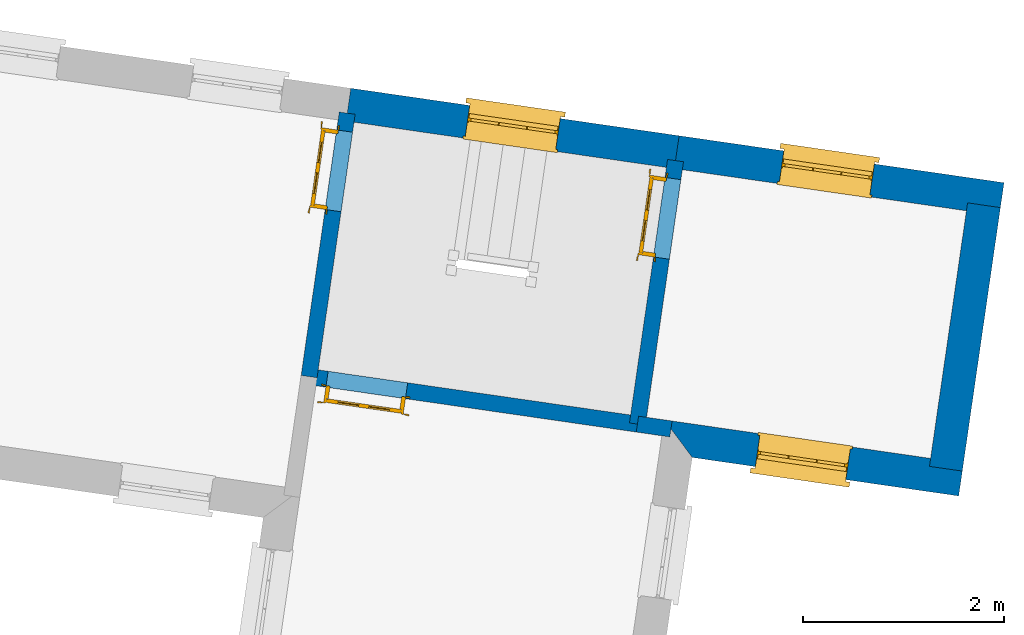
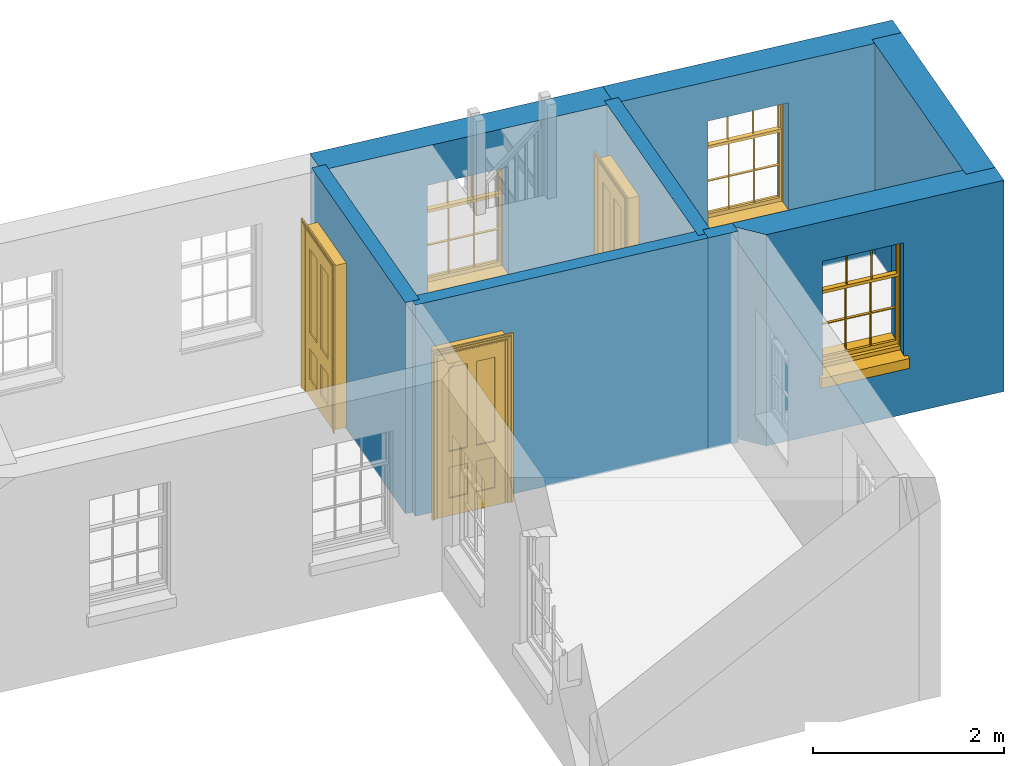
# One storey, part 2 of 4: 8 walls, 3 doors, 3 windows, 6 openings.
"""IFC4 building model written with IfcOpenShell, lengths in metres."""

from ifc_helpers import new_model, si_unit, frame, origin, origin_with_axes, place, context, subcontext, project, spatial, polyline, outline, extrude, faceted_brep, source, transform, mapped, material, layer, layer_set, layer_usage, type_object, type_shapes, element, fill, save


model = new_model("IFC4")

# Units and contexts
model_context = context("Model", 3, world=origin_with_axes())
body_context = subcontext(model_context, "Body", "Model", "MODEL_VIEW")
ifc_project = project(units=[si_unit("PLANEANGLEUNIT", "RADIAN"), si_unit("MASSUNIT", "GRAM", prefix="KILO"), si_unit("FORCEUNIT", "NEWTON", prefix="KILO"), si_unit("LENGTHUNIT", "METRE"), si_unit("AREAUNIT", "SQUARE_METRE"), si_unit("VOLUMEUNIT", "CUBIC_METRE")], contexts=[model_context, model_context])

# Sites, building, storey
site_1_placement = place(None, origin_with_axes())
site_1 = spatial("IfcSite", under=ifc_project, at=site_1_placement, Name="Tamar")
site_2_placement = place(site_1_placement, origin_with_axes())
site_2 = spatial("IfcSite", under=site_1, at=site_2_placement, Name="Site plot-30", CompositionType="ELEMENT")
building_placement = place(None, origin_with_axes())
building = spatial("IfcBuilding", under=site_2, at=building_placement, Name="Building plot-30", CompositionType="ELEMENT")
storey_placement = place(None, frame((0.0, 0.0, 28.3), z_axis=(0.0, 0.0, 1.0), x_axis=(1.0, 0.0, 0.0)))
storey = spatial("IfcBuildingStorey", under=building, at=storey_placement, Name="plot-30 1", CompositionType="ELEMENT", Elevation=28.3)

# Wall, opening, window
ifc_material_1 = material(Name="Masonry")
ifc_layer_1 = layer(ifc_material_1, 0.33, ventilated=False)
ifc_layer_set_1 = layer_set([ifc_layer_1], Name="exterior_0.08_0.25")
ifc_layer_usage_1 = layer_usage(ifc_layer_set_1, "AXIS2", "POSITIVE", -0.25)
wall_type_1 = type_object("IfcWallType", Name="exterior_0.08_0.25", PredefinedType="SOLIDWALL", material=ifc_layer_set_1)
wall_1_placement = place(storey_placement, frame((292.635763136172, 262.59733009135, 0.0), z_axis=(0.0, 0.0, 1.0), x_axis=(-0.989705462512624, 0.143119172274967, 0.0)))
wall_1 = element("IfcWall", 1, at=wall_1_placement, inside=storey, type_object=wall_type_1, material=ifc_layer_usage_1, Name="exterior", context=body_context, shape_type="SweptSolid", body=[
    extrude(outline(polyline([(-0.249999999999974, 0.0800000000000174), (-0.249999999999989, -0.249999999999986), (3.01646015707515, -0.249999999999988), (3.01646015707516, 0.0800000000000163), (-0.249999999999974, 0.0800000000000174)])), origin_with_axes(), (0.0, 0.0, 1.0), 2.7),
])
opening_1_placement = place(wall_1_placement, frame((1.05323007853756, 0.0, 0.75)))
opening_1 = element("IfcOpeningElement", 2, at=opening_1_placement, cuts=wall_1, Name="My Opening", ObjectType="Opening", context=body_context, shape_type="SweptSolid", body=[
    extrude(outline(polyline([(0.0, -0.269999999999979), (0.909999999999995, -0.270000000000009), (0.909999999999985, 1.10000000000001), (-1.06581410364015e-14, 1.10000000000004), (0.0, -0.269999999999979)])), origin_with_axes(), (0.0, 0.0, 1.0), 1.445),
])
window_type = type_object("IfcWindowType", Name="sash_shorter", PartitioningType="DOUBLE_PANEL_HORIZONTAL", PredefinedType="NOTDEFINED")
shared_shape_1 = source(origin(), body_context, "Body", "Brep", [
    faceted_brep([(0.876875, 0.145, 0.999097), (0.876875, 0.145, 1.411875), (0.9, 0.145, 1.435), (0.033125, 0.145, 1.411875), (0.033125, 0.145, 0.999097), (0.01, 0.145, 1.435), (0.033125, 0.115, 1.411875), (0.01, 0.115, 1.435), (0.033125, 0.115, 0.999097), (0.876875, 0.115, 1.411875), (0.876875, 0.115, 0.999097), (0.9, 0.115, 1.435), (0.033125, 0.145, 0.960972), (0.01, 0.145, 0.960972), (0.033125, 0.145, 0.548195), (0.876875, 0.145, 0.960972), (0.876875, 0.145, 0.548195), (0.9, 0.145, 0.960972), (0.876875, 0.145, 0.538195), (0.876875, 0.145, 0.125417), (0.9, 0.145, 0.077167), (0.033125, 0.145, 0.125417), (0.033125, 0.145, 0.538195), (0.01, 0.145, 0.077167), (0.9, 0.115, 0.960972), (0.01, 0.115, 0.960972), (-0.0425, 0.0, 0.01), (-0.0425, -0.05, 0.001667), (0.0, 0.0, 0.01), (0.9525, 0.0, 0.01), (0.91, 0.0, 0.01), (0.9525, -0.05, 0.001667), (-0.02, 0.33, 0.077167), (0.0, 0.33, 0.077167), (-0.02, 0.36, 0.077167), (0.0, 0.19, 0.077167), (0.01, 0.19, 0.077167), (0.91, 0.19, 0.077167), (0.91, 0.33, 0.077167), (0.9, 0.19, 0.077167), (0.93, 0.33, 0.077167), (0.93, 0.36, 0.077167), (0.01, 0.145, 0.999097), (0.01, 0.175, 0.999097), (0.9, 0.145, 0.999097), (0.9, 0.175, 0.999097), (0.876875, 0.175, 0.125417), (0.876875, 0.175, 0.538195), (0.9, 0.175, 0.077167), (0.876875, 0.175, 0.548195), (0.876875, 0.175, 0.960972), (0.033125, 0.175, 0.125417), (0.01, 0.175, 0.077167), (0.033125, 0.175, 0.538195), (0.033125, 0.175, 0.960972), (0.033125, 0.175, 0.548195), (-0.02, 0.33, 0.052167), (-0.02, 0.36, 0.052167), (0.93, 0.36, 0.052167), (0.93, 0.33, 0.052167), (0.91, 0.33, 0.052167), (0.0, 0.33, 0.052167), (0.91, 0.1, 0.026667), (0.0, 0.1, 0.026667), (-0.0425, -0.05, -0.123333), (0.9525, -0.05, -0.123333), (-0.0425, 0.0, -0.123333), (0.9525, 0.0, -0.123333), (0.01, 0.19, 1.435), (0.9, 0.19, 1.435), (0.0, 0.19, 1.445), (0.91, 0.19, 1.445), (0.01, 0.1, 0.077167), (0.9, 0.1, 0.077167), (0.592292, 0.145, 0.125417), (0.592292, 0.175, 0.125417), (0.317708, 0.175, 0.125417), (0.317708, 0.145, 0.125417), (0.592292, 0.145, 0.548195), (0.317708, 0.145, 0.548195), (0.317708, 0.145, 0.538195), (0.592292, 0.145, 0.538195), (0.592292, 0.175, 0.548195), (0.317708, 0.175, 0.548195), (0.602292, 0.175, 0.548195), (0.602292, 0.145, 0.548195), (0.317708, 0.175, 0.538195), (0.307708, 0.175, 0.125417), (0.307708, 0.175, 0.538195), (0.602292, 0.175, 0.538195), (0.602292, 0.175, 0.125417), (0.592292, 0.175, 0.538195), (0.307708, 0.175, 0.548195), (0.317708, 0.175, 0.960972), (0.307708, 0.175, 0.960972), (0.602292, 0.175, 0.960972), (0.592292, 0.175, 0.960972), (0.307708, 0.145, 0.538195), (0.307708, 0.145, 0.125417), (0.307708, 0.145, 0.548195), (0.307708, 0.145, 0.960972), (0.592292, 0.145, 0.960972), (0.317708, 0.145, 0.960972), (0.602292, 0.145, 0.960972), (0.602292, 0.145, 0.538195), (0.602292, 0.145, 0.125417), (0.317708, 0.115, 1.411875), (0.307708, 0.115, 1.411875), (0.307708, 0.115, 0.999097), (0.317708, 0.115, 0.999097), (0.602292, 0.115, 1.411875), (0.592292, 0.115, 1.411875), (0.592292, 0.115, 0.999097), (0.602292, 0.115, 0.999097), (0.317708, 0.145, 0.999097), (0.307708, 0.145, 0.999097), (0.307708, 0.145, 1.411875), (0.317708, 0.145, 1.411875), (0.602292, 0.145, 0.999097), (0.592292, 0.145, 0.999097), (0.592292, 0.145, 1.411875), (0.602292, 0.145, 1.411875), (0.91, 0.1, 1.445), (0.9, 0.1, 1.435), (0.01, 0.1, 1.435), (0.0, 0.1, 1.445), (0.91, 0.0, 0.0), (0.0, 0.0, 0.0), (0.91, 0.33, 0.0), (0.0, 0.33, 0.0)], [[[0, 1, 2]], [[3, 4, 5]], [[6, 7, 8]], [[9, 10, 11]], [[12, 13, 14]], [[15, 16, 17]], [[18, 19, 20]], [[21, 22, 23]], [[24, 15, 17]], [[13, 12, 25]], [[26, 27, 28]], [[29, 30, 31]], [[32, 33, 34]], [[35, 36, 33]], [[37, 38, 39]], [[40, 41, 38]], [[42, 4, 43]], [[44, 45, 0]], [[46, 47, 48]], [[49, 50, 45]], [[51, 52, 53]], [[54, 55, 43]], [[38, 33, 36, 39]], [[41, 34, 33, 38]], [[56, 32, 34, 57]], [[57, 34, 41, 58]], [[58, 41, 40, 59]], [[57, 58, 60, 61]], [[52, 48, 39, 36]], [[62, 63, 28, 30]], [[27, 31, 30, 28]], [[27, 64, 65, 31]], [[66, 67, 65, 64]], [[2, 5, 68, 69]], [[68, 70, 71, 69]], [[20, 23, 72, 73]], [[73, 72, 63, 62]], [[74, 75, 76, 77]], [[78, 79, 80, 81]], [[78, 82, 83, 79]], [[16, 49, 84, 85]], [[86, 76, 87, 88]], [[89, 90, 75, 91]], [[92, 88, 53, 55]], [[82, 91, 86, 83]], [[93, 83, 92, 94]], [[95, 84, 82, 96]], [[89, 84, 49, 47]], [[97, 88, 87, 98]], [[22, 53, 88, 97]], [[81, 91, 75, 74]], [[80, 86, 91, 81]], [[77, 76, 86, 80]], [[99, 92, 55, 14]], [[100, 94, 92, 99]], [[101, 96, 82, 78]], [[79, 83, 93, 102]], [[85, 84, 95, 103]], [[104, 89, 47, 18]], [[105, 90, 89, 104]], [[104, 18, 16, 85]], [[80, 97, 98, 77]], [[104, 81, 74, 105]], [[103, 101, 78, 85]], [[99, 14, 22, 97]], [[102, 100, 99, 79]], [[106, 107, 108, 109]], [[110, 111, 112, 113]], [[114, 115, 116, 117]], [[118, 119, 120, 121]], [[107, 116, 115, 108]], [[111, 120, 119, 112]], [[109, 114, 117, 106]], [[113, 118, 121, 110]], [[85, 78, 81, 104]], [[84, 89, 91, 82]], [[83, 86, 88, 92]], [[79, 99, 97, 80]], [[109, 112, 119, 114]], [[102, 93, 96, 101]], [[106, 117, 120, 111]], [[98, 87, 51, 21]], [[6, 3, 116, 107]], [[110, 121, 1, 9]], [[19, 46, 90, 105]], [[26, 66, 64, 27]], [[29, 31, 65, 67]], [[25, 24, 112, 109]], [[11, 7, 106, 111]], [[75, 48, 52, 76]], [[43, 45, 96, 93]], [[45, 43, 114, 119]], [[5, 2, 120, 117]], [[24, 25, 102, 101]], [[42, 5, 4]], [[2, 44, 0]], [[49, 45, 48, 47]], [[52, 43, 55, 53]], [[14, 13, 23, 22]], [[20, 17, 16, 18]], [[24, 11, 10]], [[25, 8, 7]], [[8, 4, 3, 6]], [[9, 1, 0, 10]], [[15, 50, 49, 16]], [[18, 47, 46, 19]], [[21, 51, 53, 22]], [[14, 55, 54, 12]], [[44, 2, 69, 45]], [[68, 5, 42, 43]], [[36, 35, 70, 68]], [[39, 69, 71, 37]], [[62, 122, 123, 73]], [[63, 72, 124, 125]], [[8, 108, 115, 4]], [[113, 10, 0, 118]], [[94, 100, 12, 54]], [[17, 20, 73, 24]], [[72, 23, 13, 25]], [[52, 36, 68, 43]], [[69, 39, 48, 45]], [[11, 24, 73, 123]], [[7, 124, 72, 25]], [[23, 77, 98]], [[98, 21, 23]], [[105, 74, 20]], [[20, 19, 105]], [[20, 74, 77, 23]], [[113, 112, 24]], [[24, 10, 113]], [[25, 109, 108]], [[108, 8, 25]], [[110, 9, 11]], [[11, 111, 110]], [[7, 6, 107]], [[107, 106, 7]], [[5, 117, 116]], [[116, 3, 5]], [[121, 120, 2]], [[2, 1, 121]], [[11, 123, 124, 7]], [[122, 125, 124, 123]], [[43, 93, 94]], [[94, 54, 43]], [[96, 45, 95]], [[50, 95, 45]], [[15, 103, 95, 50]], [[48, 75, 90]], [[90, 46, 48]], [[87, 76, 52]], [[52, 51, 87]], [[103, 15, 24]], [[24, 101, 103]], [[100, 102, 25]], [[25, 12, 100]], [[115, 114, 43]], [[43, 4, 115]], [[118, 0, 45]], [[45, 119, 118]], [[71, 70, 125, 122]], [[70, 35, 63, 125]], [[122, 62, 37, 71]], [[126, 67, 66, 127]], [[60, 58, 59]], [[38, 60, 59, 40]], [[61, 56, 57]], [[32, 56, 61, 33]], [[61, 60, 128, 129]], [[62, 60, 38, 37]], [[126, 128, 60, 62]], [[33, 61, 63, 35]], [[61, 129, 127, 63]], [[128, 126, 127, 129]], [[28, 127, 66, 26]], [[63, 127, 28]], [[29, 67, 126, 30]], [[30, 126, 62]]]),
])
type_shapes(window_type, [shared_shape_1])
window_1_placement = place(storey_placement, frame((291.632017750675, 263.015287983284, 0.75), z_axis=(0.0, 0.0, 1.0), x_axis=(-0.900631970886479, 0.13023844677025, 0.0)))
window_1 = element("IfcWindow", 3, at=window_1_placement, inside=storey, type_object=window_type, Name="toilet outside window", OverallHeight=1.445, OverallWidth=0.91, context=body_context, shape_type="MappedRepresentation", body=[
    mapped(shared_shape_1, transform((0.0, 0.0, 0.0), scale=1.0)),
])
fill(opening_1, window_1)

wall_2_placement = place(storey_placement, frame((289.650356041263, 263.029043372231, 0.0), z_axis=(0.0, 0.0, 1.0), x_axis=(-0.989705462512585, 0.143119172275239, 0.0)))
wall_2 = element("IfcWall", 4, at=wall_2_placement, inside=storey, type_object=wall_type_1, material=ifc_layer_usage_1, Name="exterior", context=body_context, shape_type="SweptSolid", body=[
    extrude(outline(polyline([(-8.41503283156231e-15, 0.0800000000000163), (6.75168679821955e-14, -0.249999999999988), (3.3010173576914, -0.249999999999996), (3.30101735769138, 0.0800000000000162), (-8.41503283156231e-15, 0.0800000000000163)])), origin_with_axes(), (0.0, 0.0, 1.0), 2.7),
])
opening_2_placement = place(wall_2_placement, frame((1.19550867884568, 0.0, 0.75)))
opening_2 = element("IfcOpeningElement", 5, at=opening_2_placement, cuts=wall_2, Name="My Opening", ObjectType="Opening", context=body_context, shape_type="SweptSolid", body=[
    extrude(outline(polyline([(0.0, -0.270000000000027), (0.910000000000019, -0.269999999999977), (0.910000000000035, 1.10000000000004), (1.53210777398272e-14, 1.09999999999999), (0.0, -0.270000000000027)])), origin_with_axes(), (0.0, 0.0, 1.0), 1.445),
])
window_2_placement = place(storey_placement, frame((288.505796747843, 263.467364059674, 0.75), z_axis=(0.0, 0.0, 1.0), x_axis=(-0.900631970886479, 0.13023844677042, 0.0)))
window_2 = element("IfcWindow", 6, at=window_2_placement, inside=storey, type_object=window_type, Name="circulation outside window", OverallHeight=1.445, OverallWidth=0.91, context=body_context, shape_type="MappedRepresentation", body=[
    mapped(shared_shape_1, transform((0.0, 0.0, 0.0), scale=1.0)),
])
fill(opening_2, window_2)

wall_3_placement = place(storey_placement, frame((289.605061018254, 260.358638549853, 0.0), z_axis=(0.0, 0.0, 1.0), x_axis=(0.98970546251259, -0.143119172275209, 0.0)))
wall_3 = element("IfcWall", 7, at=wall_3_placement, inside=storey, type_object=wall_type_1, material=ifc_layer_usage_1, Name="exterior", context=body_context, shape_type="SweptSolid", body=[
    extrude(outline(polyline([(-0.0800000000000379, 0.0799999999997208), (0.250000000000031, -0.249999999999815), (2.92910276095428, -0.249999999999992), (2.92910276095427, 0.0800000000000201), (-0.0800000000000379, 0.0799999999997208)])), origin_with_axes(), (0.0, 0.0, 1.0), 2.7),
])
opening_3_placement = place(wall_3_placement, frame((0.884551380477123, 0.0, 0.75)))
opening_3 = element("IfcOpeningElement", 8, at=opening_3_placement, cuts=wall_3, Name="My Opening", ObjectType="Opening", context=body_context, shape_type="SweptSolid", body=[
    extrude(outline(polyline([(0.0, -0.270000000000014), (0.91000000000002, -0.26999999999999), (0.91000000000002, 1.10000000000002), (-1.11022302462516e-16, 1.09999999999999), (0.0, -0.270000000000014)])), origin_with_axes(), (0.0, 0.0, 1.0), 1.445),
])
window_3_placement = place(storey_placement, frame((290.441864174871, 259.964821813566, 0.75), z_axis=(0.0, 0.0, 1.0), x_axis=(0.900631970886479, -0.13023844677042, 0.0)))
window_3 = element("IfcWindow", 9, at=window_3_placement, inside=storey, type_object=window_type, Name="toilet sahn window", OverallHeight=1.445, OverallWidth=0.91, context=body_context, shape_type="MappedRepresentation", body=[
    mapped(shared_shape_1, transform((0.0, 0.0, 0.0), scale=1.0)),
])
fill(opening_3, window_3)

# Walls
ifc_material_2 = material(Name="Masonry")
ifc_layer_2 = layer(ifc_material_2, 0.33, ventilated=False)
ifc_layer_set_2 = layer_set([ifc_layer_2], Name="party_0.08_0.25")
ifc_layer_usage_2 = layer_usage(ifc_layer_set_2, "AXIS2", "POSITIVE", -0.25)
wall_type_2 = type_object("IfcWallType", Name="party_0.08_0.25", PredefinedType="SOLIDWALL", material=ifc_layer_set_2)
wall_4_placement = place(storey_placement, frame((292.256583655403, 259.975207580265, 0.0), z_axis=(0.0, 0.0, 1.0), x_axis=(0.143119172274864, 0.98970546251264, 0.0)))
element("IfcWall", 10, at=wall_4_placement, inside=storey, type_object=wall_type_2, material=ifc_layer_usage_2, Name="party", context=body_context, shape_type="SweptSolid", body=[
    extrude(outline(polyline([(2.18540877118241e-14, 0.0800000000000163), (-2.71851560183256e-14, -0.249999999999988), (2.64939682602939, -0.249999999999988), (2.64939682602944, 0.0800000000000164), (2.18540877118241e-14, 0.0800000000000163)])), origin_with_axes(), (0.0, 0.0, 1.0), 2.7),
])
ifc_material_3 = material(Name="Masonry")
ifc_layer_3 = layer(ifc_material_3, 0.16, ventilated=False)
ifc_layer_set_3 = layer_set([ifc_layer_3], Name="interior_0.08_0.08")
ifc_layer_usage_3 = layer_usage(ifc_layer_set_3, "AXIS2", "POSITIVE", -0.08)
wall_type_3 = type_object("IfcWallType", Name="interior_0.08_0.08", PredefinedType="SOLIDWALL", material=ifc_layer_set_3)
wall_5_placement = place(storey_placement, frame((289.271176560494, 260.406920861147, 0.0), z_axis=(0.0, 0.0, 1.0), x_axis=(0.9897054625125, -0.143119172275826, 0.0)))
element("IfcWall", 11, at=wall_5_placement, inside=storey, type_object=wall_type_3, material=ifc_layer_usage_3, Name="interior", context=body_context, shape_type="SweptSolid", body=[
    extrude(outline(polyline([(3.6016995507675e-16, 0.0800000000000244), (-3.69967129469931e-16, -0.0800000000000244), (0.33735739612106, -0.0800000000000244), (0.337357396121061, 0.0800000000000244), (3.6016995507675e-16, 0.0800000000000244)])), origin_with_axes(), (0.0, 0.0, 1.0), 2.7),
])

# Wall, opening, door
wall_6_placement = place(storey_placement, frame((289.271176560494, 260.406920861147, 0.0), z_axis=(0.0, 0.0, 1.0), x_axis=(0.143119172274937, 0.989705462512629, 0.0)))
wall_6 = element("IfcWall", 12, at=wall_6_placement, inside=storey, type_object=wall_type_3, material=ifc_layer_usage_3, Name="interior", context=body_context, shape_type="SweptSolid", body=[
    extrude(outline(polyline([(1.59743465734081e-14, 0.0800000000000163), (-1.59823129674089e-14, -0.0800000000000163), (2.64939682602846, -0.0800000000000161), (2.64939682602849, 0.0800000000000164), (1.59743465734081e-14, 0.0800000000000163)])), origin_with_axes(), (0.0, 0.0, 1.0), 2.7),
])
opening_4_placement = place(wall_6_placement, frame((1.66939682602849, 0.0, 0.0199999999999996)))
opening_4 = element("IfcOpeningElement", 13, at=opening_4_placement, cuts=wall_6, Name="My Opening", ObjectType="Opening", context=body_context, shape_type="SweptSolid", body=[
    extrude(outline(polyline([(0.0, -0.100000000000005), (0.800000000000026, -0.100000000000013), (0.800000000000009, 1.10000000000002), (-1.68753899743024e-14, 1.10000000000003), (0.0, -0.100000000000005)])), origin_with_axes(), (0.0, 0.0, 1.0), 2.1),
])
door_type = type_object("IfcDoorType", Name="door_inside", OperationType="SINGLE_SWING_LEFT", PredefinedType="NOTDEFINED")
shared_shape_2 = source(origin(), body_context, "Body", "Brep", [
    faceted_brep([(0.773, 0.33, 1.895), (0.66, 0.33, 1.895), (0.66, 0.33, 2.073), (0.773, 0.33, 2.073), (0.773, 0.33, 0.82), (0.66, 0.33, 0.82), (0.45, 0.33, 1.895), (0.45, 0.33, 2.073), (0.773, 0.33, 0.62), (0.66, 0.33, 0.62), (0.66, 0.315, 0.82), (0.66, 0.315, 1.895), (0.45, 0.315, 1.895), (0.35, 0.33, 1.895), (0.35, 0.33, 2.073), (0.773, 0.33, 0.225), (0.66, 0.33, 0.225), (0.45, 0.33, 0.62), (0.45, 0.33, 0.82), (0.45, 0.315, 0.82), (0.35, 0.33, 0.82), (0.14, 0.33, 2.073), (0.14, 0.33, 1.895), (0.773, 0.33, 0.0), (0.66, 0.33, 0.0), (0.66, 0.315, 0.225), (0.66, 0.315, 0.62), (0.45, 0.315, 0.62), (0.35, 0.33, 0.62), (0.35, 0.315, 0.82), (0.35, 0.315, 1.895), (0.14, 0.315, 1.895), (0.027, 0.33, 2.073), (0.027, 0.33, 1.895), (0.773, 0.292, 0.0), (0.66, 0.292, 0.0), (0.45, 0.33, 0.0), (0.45, 0.33, 0.225), (0.45, 0.315, 0.225), (0.35, 0.33, 0.225), (0.14, 0.33, 0.82), (0.14, 0.33, 0.62), (0.14, 0.315, 0.82), (0.027, 0.33, 0.82), (0.773, 0.292, 0.225), (0.66, 0.292, 0.225), (0.45, 0.292, 0.0), (0.35, 0.33, 0.0), (0.35, 0.315, 0.225), (0.35, 0.315, 0.62), (0.14, 0.315, 0.62), (0.027, 0.33, 0.62), (0.773, 0.292, 0.62), (0.66, 0.292, 0.62), (0.45, 0.292, 0.225), (0.35, 0.292, 0.0), (0.14, 0.33, 0.225), (0.14, 0.33, 0.0), (0.14, 0.315, 0.225), (0.027, 0.33, 0.225), (0.773, 0.292, 0.82), (0.66, 0.292, 0.82), (0.66, 0.307, 0.62), (0.66, 0.307, 0.225), (0.45, 0.307, 0.225), (0.35, 0.292, 0.225), (0.14, 0.292, 0.0), (0.027, 0.33, 0.0), (0.773, 0.292, 1.895), (0.66, 0.292, 1.895), (0.45, 0.292, 0.62), (0.45, 0.292, 0.82), (0.45, 0.307, 0.62), (0.35, 0.292, 0.62), (0.14, 0.292, 0.225), (0.027, 0.292, 0.0), (0.773, 0.292, 2.073), (0.66, 0.292, 2.073), (0.66, 0.307, 1.895), (0.66, 0.307, 0.82), (0.45, 0.307, 0.82), (0.35, 0.292, 0.82), (0.35, 0.307, 0.62), (0.35, 0.307, 0.225), (0.14, 0.307, 0.225), (0.027, 0.292, 0.225), (0.45, 0.292, 1.895), (0.45, 0.292, 2.073), (0.45, 0.307, 1.895), (0.35, 0.292, 1.895), (0.14, 0.292, 0.82), (0.14, 0.292, 0.62), (0.14, 0.307, 0.62), (0.027, 0.292, 0.62), (0.35, 0.292, 2.073), (0.35, 0.307, 1.895), (0.35, 0.307, 0.82), (0.14, 0.307, 0.82), (0.027, 0.292, 0.82), (0.14, 0.292, 2.073), (0.14, 0.292, 1.895), (0.14, 0.307, 1.895), (0.027, 0.292, 1.895), (0.027, 0.292, 2.073), (0.02, 0.335, 0.0), (0.005, 0.34, 0.0), (0.005, 0.34, 2.095), (0.02, 0.335, 2.08), (0.02, 0.33, 0.0), (0.0, 0.335, 0.0), (0.0, 0.335, 2.1), (0.795, 0.34, 2.095), (0.78, 0.335, 2.08), (0.02, 0.33, 2.08), (0.0, 0.33, 0.0), (-0.032, 0.345, 0.0), (-0.032, 0.345, 2.132), (0.8, 0.335, 2.1), (0.795, 0.34, 0.0), (0.78, 0.335, 0.0), (0.78, 0.33, 2.08), (0.04, 0.29, 0.0), (0.025, 0.29, 0.0), (0.025, 0.29, 2.075), (0.04, 0.29, 2.06), (-0.04, 0.34, 0.0), (-0.04, 0.34, 2.14), (0.832, 0.345, 2.132), (0.8, 0.335, 0.0), (0.78, 0.33, 0.0), (0.8, 0.33, 0.0), (0.86, 0.33, 0.0), (0.86, 0.33, 2.16), (0.8, 0.33, 2.1), (-0.06, 0.33, 2.16), (0.0, 0.33, 2.1), (-0.06, 0.33, 0.0), (-0.04, 0.345, 0.0), (-0.04, 0.345, 2.14), (0.84, 0.34, 2.14), (0.832, 0.345, 0.0), (0.84, 0.34, 0.0), (0.86, 0.345, 0.0), (0.86, 0.345, 2.16), (-0.06, 0.345, 2.16), (-0.06, 0.345, 0.0), (0.84, 0.345, 0.0), (0.84, 0.345, 2.14), (-0.025, 0.155, 0.0), (-0.025, 0.16, 0.0), (-0.025, 0.16, 2.125), (-0.025, 0.155, 2.125), (-0.017, 0.155, 0.0), (-0.017, 0.155, 2.117), (0.825, 0.16, 2.125), (0.825, 0.155, 2.125), (0.825, 0.155, 0.0), (0.845, 0.155, 0.0), (-0.045, 0.155, 2.145), (-0.045, 0.155, 0.0), (0.845, 0.155, 2.145), (0.015, 0.165, 0.0), (0.015, 0.165, 2.085), (0.817, 0.155, 2.117), (0.825, 0.16, 0.0), (0.845, 0.17, 0.0), (0.845, 0.17, 2.145), (-0.045, 0.17, 2.145), (-0.045, 0.17, 0.0), (0.02, 0.16, 0.0), (0.02, 0.16, 2.08), (0.785, 0.165, 2.085), (0.817, 0.155, 0.0), (0.8, 0.17, 0.0), (0.8, 0.17, 2.1), (0.0, 0.17, 2.1), (0.0, 0.17, 0.0), (0.035, 0.165, 0.0), (0.035, 0.165, 2.065), (0.78, 0.16, 2.08), (0.785, 0.165, 0.0), (0.775, 0.29, 2.075), (0.76, 0.29, 2.06), (0.035, 0.17, 2.065), (0.035, 0.17, 0.0), (0.765, 0.165, 2.065), (0.78, 0.16, 0.0), (0.765, 0.17, 0.0), (0.765, 0.17, 2.065), (0.765, 0.165, 0.0), (0.04, 0.17, 2.06), (0.04, 0.17, 0.0), (0.76, 0.17, 2.06), (0.76, 0.17, 0.0), (0.76, 0.29, 0.0), (0.775, 0.29, 0.0), (0.025, 0.33, 0.0), (0.025, 0.33, 2.075), (0.775, 0.33, 0.0), (0.775, 0.33, 2.075)], [[[0, 1, 2, 3]], [[1, 0, 4, 5]], [[1, 6, 7, 2]], [[8, 9, 5, 4]], [[1, 5, 10, 11]], [[6, 1, 11, 12]], [[6, 13, 14, 7]], [[15, 16, 9, 8]], [[9, 17, 18, 5]], [[5, 18, 19, 10]], [[10, 19, 12, 11]], [[18, 6, 12, 19]], [[18, 20, 13, 6]], [[21, 14, 13, 22]], [[23, 24, 16, 15]], [[9, 16, 25, 26]], [[17, 9, 26, 27]], [[17, 28, 20, 18]], [[13, 20, 29, 30]], [[22, 13, 30, 31]], [[32, 21, 22, 33]], [[34, 35, 24, 23]], [[24, 36, 37, 16]], [[16, 37, 38, 25]], [[25, 38, 27, 26]], [[37, 17, 27, 38]], [[37, 39, 28, 17]], [[40, 20, 28, 41]], [[20, 40, 42, 29]], [[31, 30, 29, 42]], [[40, 22, 31, 42]], [[33, 22, 40, 43]], [[35, 34, 44, 45]], [[35, 46, 36, 24]], [[36, 47, 39, 37]], [[28, 39, 48, 49]], [[41, 28, 49, 50]], [[43, 40, 41, 51]], [[45, 44, 52, 53]], [[46, 35, 45, 54]], [[46, 55, 47, 36]], [[56, 39, 47, 57]], [[39, 56, 58, 48]], [[50, 49, 48, 58]], [[56, 41, 50, 58]], [[51, 41, 56, 59]], [[53, 52, 60, 61]], [[45, 53, 62, 63]], [[54, 45, 63, 64]], [[55, 46, 54, 65]], [[55, 66, 57, 47]], [[59, 56, 57, 67]], [[61, 60, 68, 69]], [[70, 53, 61, 71]], [[53, 70, 72, 62]], [[72, 64, 63, 62]], [[70, 54, 64, 72]], [[65, 54, 70, 73]], [[65, 74, 66, 55]], [[67, 57, 66, 75]], [[69, 68, 76, 77]], [[61, 69, 78, 79]], [[71, 61, 79, 80]], [[73, 70, 71, 81]], [[65, 73, 82, 83]], [[74, 65, 83, 84]], [[74, 85, 75, 66]], [[86, 69, 77, 87]], [[69, 86, 88, 78]], [[88, 80, 79, 78]], [[86, 71, 80, 88]], [[81, 71, 86, 89]], [[73, 81, 90, 91]], [[73, 91, 92, 82]], [[83, 82, 92, 84]], [[91, 74, 84, 92]], [[91, 93, 85, 74]], [[89, 86, 87, 94]], [[81, 89, 95, 96]], [[90, 81, 96, 97]], [[90, 98, 93, 91]], [[94, 99, 100, 89]], [[89, 100, 101, 95]], [[101, 97, 96, 95]], [[100, 90, 97, 101]], [[100, 102, 98, 90]], [[99, 103, 102, 100]], [[32, 103, 99, 21]], [[102, 103, 32, 33]], [[98, 102, 33, 43]], [[21, 99, 94, 14]], [[94, 87, 7, 14]], [[7, 87, 77, 2]], [[76, 3, 2, 77]], [[43, 51, 93, 98]], [[51, 59, 85, 93]], [[67, 75, 85, 59]], [[34, 23, 15, 44]], [[44, 15, 8, 52]], [[52, 8, 4, 60]], [[0, 68, 60, 4]], [[0, 3, 76, 68]], [[104, 105, 106, 107]], [[104, 108, 109, 105]], [[105, 109, 110, 106]], [[107, 106, 111, 112]], [[107, 113, 108, 104]], [[114, 109, 108]], [[109, 115, 116, 110]], [[106, 110, 117, 111]], [[112, 111, 118, 119]], [[113, 107, 112, 120]], [[121, 122, 123, 124]], [[115, 109, 114, 125]], [[115, 125, 126, 116]], [[110, 116, 127, 117]], [[111, 117, 128, 118]], [[118, 128, 129, 119]], [[120, 112, 119, 129]], [[130, 129, 128]], [[130, 131, 132, 133]], [[133, 132, 134, 135]], [[135, 134, 136, 114]], [[136, 125, 114]], [[125, 137, 138, 126]], [[116, 126, 139, 127]], [[117, 127, 140, 128]], [[141, 130, 128, 140]], [[131, 130, 141]], [[131, 142, 143, 132]], [[132, 143, 144, 134]], [[134, 144, 145, 136]], [[137, 125, 136, 145]], [[143, 142, 146]], [[143, 146, 147]], [[137, 145, 144]], [[143, 147, 138]], [[138, 137, 144]], [[143, 138, 144]], [[126, 138, 147, 139]], [[127, 139, 141, 140]], [[142, 131, 141, 146]], [[139, 147, 146, 141]], [[148, 149, 150, 151]], [[149, 152, 153, 150]], [[151, 150, 154, 155]], [[155, 156, 157]], [[158, 159, 148]], [[158, 148, 151]], [[155, 157, 160]], [[158, 151, 155]], [[155, 160, 158]], [[152, 161, 162, 153]], [[150, 153, 163, 154]], [[155, 154, 164, 156]], [[156, 164, 165, 157]], [[157, 165, 166, 160]], [[160, 166, 167, 158]], [[158, 167, 168, 159]], [[161, 169, 170, 162]], [[153, 162, 171, 163]], [[154, 163, 172, 164]], [[165, 164, 173]], [[165, 173, 174, 166]], [[166, 174, 175, 167]], [[167, 175, 176, 168]], [[169, 177, 178, 170]], [[162, 170, 179, 171]], [[163, 171, 180, 172]], [[172, 180, 173, 164]], [[124, 123, 181, 182]], [[183, 178, 177, 184]], [[170, 178, 185, 179]], [[171, 179, 186, 180]], [[187, 173, 180]], [[185, 188, 187, 189]], [[188, 185, 178, 183]], [[179, 185, 189, 186]], [[189, 187, 180, 186]], [[190, 183, 184, 191]], [[192, 188, 183, 190]], [[191, 184, 122, 121]], [[124, 190, 191, 121]], [[193, 187, 188, 192]], [[182, 192, 190, 124]], [[184, 176, 122]], [[194, 195, 187, 193]], [[192, 182, 194, 193]], [[161, 176, 184]], [[114, 108, 122, 176]], [[173, 187, 195]], [[152, 149, 176, 161]], [[169, 161, 184, 177]], [[196, 122, 108]], [[176, 175, 135, 114]], [[173, 195, 129, 130]], [[176, 149, 168]], [[123, 122, 196, 197]], [[196, 108, 113, 197]], [[175, 174, 133, 135]], [[198, 129, 195]], [[133, 174, 173, 130]], [[159, 168, 149, 148]], [[181, 123, 197, 199]], [[197, 113, 120, 199]], [[199, 120, 129, 198]], [[195, 181, 199, 198]], [[195, 194, 182, 181]]]),
])
type_shapes(door_type, [shared_shape_2])
door_1_placement = place(storey_placement, frame((289.609069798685, 262.044820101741, 0.0199999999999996), z_axis=(0.0, 0.0, 1.0), x_axis=(0.11449533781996, 0.791764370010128, 0.0)))
door_1 = element("IfcDoor", 14, at=door_1_placement, inside=storey, type_object=door_type, Name="toilet inside door", OverallHeight=2.1, OverallWidth=0.8, context=body_context, shape_type="MappedRepresentation", body=[
    mapped(shared_shape_2, transform((0.0, 0.0, 0.0), scale=1.0)),
])
fill(opening_4, door_1)

wall_7_placement = place(storey_placement, frame((289.271176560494, 260.406920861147, 0.0), z_axis=(0.0, 0.0, 1.0), x_axis=(-0.989705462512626, 0.143119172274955, 0.0)))
wall_7 = element("IfcWall", 15, at=wall_7_placement, inside=storey, type_object=wall_type_3, material=ifc_layer_usage_3, Name="interior", context=body_context, shape_type="SweptSolid", body=[
    extrude(outline(polyline([(1.45710246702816e-14, 0.0800000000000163), (-1.45257003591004e-14, -0.0800000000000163), (3.30101735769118, -0.0800000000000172), (3.3010173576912, 0.0800000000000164), (1.45710246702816e-14, 0.0800000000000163)])), origin_with_axes(), (0.0, 0.0, 1.0), 2.7),
])
opening_5_placement = place(wall_7_placement, frame((2.32101735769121, 0.0, 0.0199999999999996)))
opening_5 = element("IfcOpeningElement", 16, at=opening_5_placement, cuts=wall_7, Name="My Opening", ObjectType="Opening", context=body_context, shape_type="SweptSolid", body=[
    extrude(outline(polyline([(0.0, -0.100000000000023), (0.800000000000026, -0.100000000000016), (0.799999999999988, 1.10000000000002), (-3.86357612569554e-14, 1.10000000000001), (0.0, -0.100000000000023)])), origin_with_axes(), (0.0, 0.0, 1.0), 2.1),
])
door_2_placement = place(storey_placement, frame((286.988364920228, 260.838073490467, 0.0199999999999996), z_axis=(0.0, 0.0, 1.0), x_axis=(-0.791764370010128, 0.11449533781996, 0.0)))
door_2 = element("IfcDoor", 17, at=door_2_placement, inside=storey, type_object=door_type, Name="bedroom inside door", OverallHeight=2.1, OverallWidth=0.8, context=body_context, shape_type="MappedRepresentation", body=[
    mapped(shared_shape_2, transform((0.0, 0.0, 0.0), scale=1.0)),
])
fill(opening_5, door_2)

wall_8_placement = place(storey_placement, frame((286.004141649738, 260.879359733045, 0.0), z_axis=(0.0, 0.0, 1.0), x_axis=(0.143119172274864, 0.98970546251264, 0.0)))
wall_8 = element("IfcWall", 18, at=wall_8_placement, inside=storey, type_object=wall_type_3, material=ifc_layer_usage_3, Name="interior", context=body_context, shape_type="SweptSolid", body=[
    extrude(outline(polyline([(2.18540877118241e-14, 0.0800000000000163), (-2.18442905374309e-14, -0.0800000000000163), (2.6493968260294, -0.0800000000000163), (2.64939682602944, 0.0800000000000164), (2.18540877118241e-14, 0.0800000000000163)])), origin_with_axes(), (0.0, 0.0, 1.0), 2.7),
])
opening_6_placement = place(wall_8_placement, frame((1.66939682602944, 0.0, 0.0199999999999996)))
opening_6 = element("IfcOpeningElement", 19, at=opening_6_placement, cuts=wall_8, Name="My Opening", ObjectType="Opening", context=body_context, shape_type="SweptSolid", body=[
    extrude(outline(polyline([(0.0, -0.0999999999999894), (0.799999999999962, -0.100000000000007), (0.799999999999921, 1.10000000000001), (-4.13002965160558e-14, 1.10000000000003), (0.0, -0.0999999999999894)])), origin_with_axes(), (0.0, 0.0, 1.0), 2.1),
])
door_3_placement = place(storey_placement, frame((286.342034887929, 262.51725897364, 0.0199999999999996), z_axis=(0.0, 0.0, 1.0), x_axis=(0.114495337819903, 0.791764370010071, 0.0)))
door_3 = element("IfcDoor", 20, at=door_3_placement, inside=storey, type_object=door_type, Name="bedroom inside door", OverallHeight=2.1, OverallWidth=0.8, context=body_context, shape_type="MappedRepresentation", body=[
    mapped(shared_shape_2, transform((0.0, 0.0, 0.0), scale=1.0)),
])
fill(opening_6, door_3)

save(model, "model.ifc")
